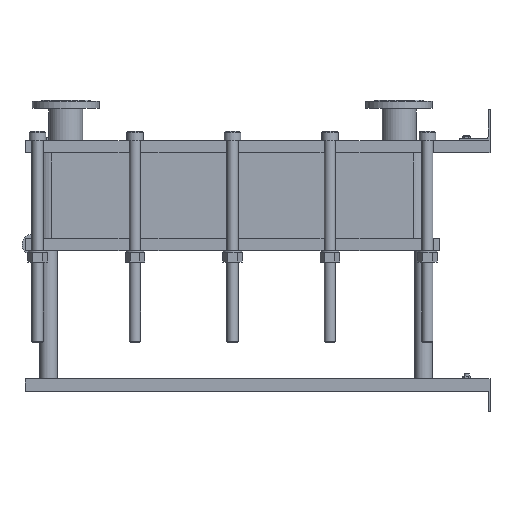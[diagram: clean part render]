
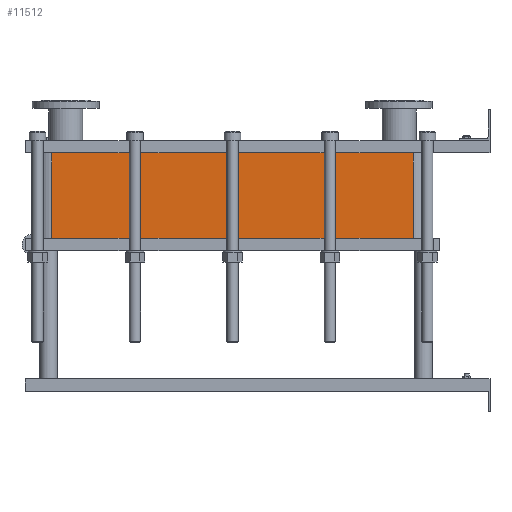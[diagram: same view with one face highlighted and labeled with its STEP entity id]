
A CAD part, left-side view. The second image highlights one B-rep face of the part: STEP entity #11512.
In plain terms, the highlighted planar face has unit normal (-1, 0, 0).
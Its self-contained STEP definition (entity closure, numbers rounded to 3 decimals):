
#1129=LINE('',#23232,#2102);
#1130=LINE('',#23236,#2103);
#1131=LINE('',#23238,#2104);
#1132=LINE('',#23239,#2105);
#2102=VECTOR('',#15887,10.);
#2103=VECTOR('',#15892,10.);
#2104=VECTOR('',#15893,10.);
#2105=VECTOR('',#15894,10.);
#3267=FACE_OUTER_BOUND('',#4093,.T.);
#4093=EDGE_LOOP('',(#10103,#10104,#10105,#10106));
#5642=VERTEX_POINT('',#23229);
#5643=VERTEX_POINT('',#23231);
#5644=VERTEX_POINT('',#23235);
#5645=VERTEX_POINT('',#23237);
#7159=EDGE_CURVE('',#5643,#5642,#1129,.T.);
#7161=EDGE_CURVE('',#5642,#5644,#1130,.T.);
#7162=EDGE_CURVE('',#5645,#5644,#1131,.T.);
#7163=EDGE_CURVE('',#5645,#5643,#1132,.T.);
#10103=ORIENTED_EDGE('',*,*,#7161,.T.);
#10104=ORIENTED_EDGE('',*,*,#7162,.F.);
#10105=ORIENTED_EDGE('',*,*,#7163,.T.);
#10106=ORIENTED_EDGE('',*,*,#7159,.T.);
#10857=PLANE('',#12751);
#11512=ADVANCED_FACE('',(#3267),#10857,.T.);
#12751=AXIS2_PLACEMENT_3D('',#23234,#15890,#15891);
#15887=DIRECTION('',(0.,0.,-1.));
#15890=DIRECTION('center_axis',(-1.,0.,0.));
#15891=DIRECTION('ref_axis',(0.,1.,0.));
#15892=DIRECTION('',(0.,-1.,0.));
#15893=DIRECTION('',(0.,0.,-1.));
#15894=DIRECTION('',(0.,1.,0.));
#23229=CARTESIAN_POINT('',(-200.,1414.,-276.));
#23231=CARTESIAN_POINT('',(-200.,1414.,0.));
#23232=CARTESIAN_POINT('',(-200.,1414.,0.));
#23234=CARTESIAN_POINT('Origin',(-200.,248.,0.));
#23235=CARTESIAN_POINT('',(-200.,248.,-276.));
#23236=CARTESIAN_POINT('',(-200.,539.5,-276.));
#23237=CARTESIAN_POINT('',(-200.,248.,0.));
#23238=CARTESIAN_POINT('',(-200.,248.,0.));
#23239=CARTESIAN_POINT('',(-200.,248.,0.));
